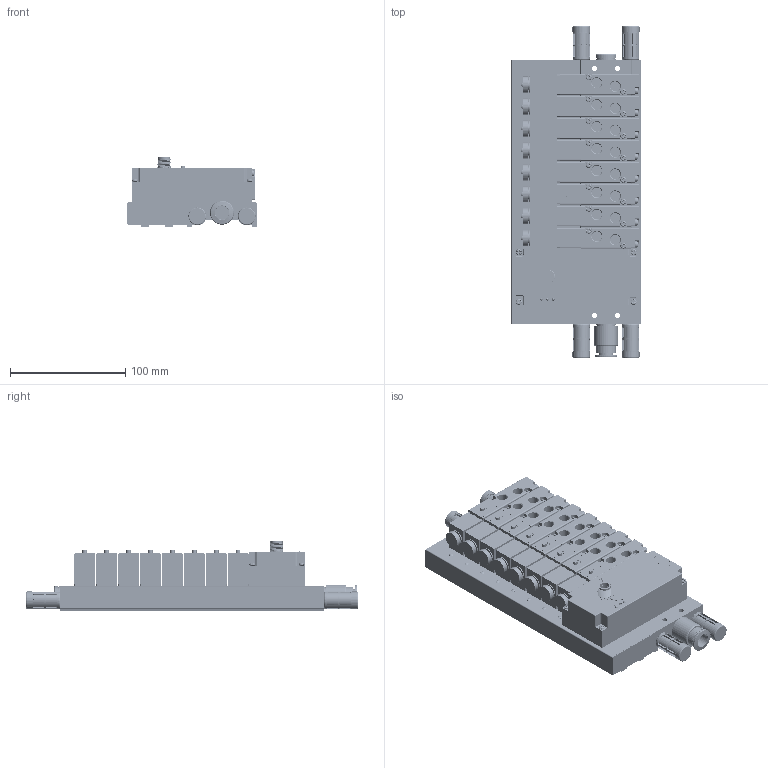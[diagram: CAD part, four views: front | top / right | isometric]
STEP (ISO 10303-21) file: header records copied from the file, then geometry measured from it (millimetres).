
FILE_DESCRIPTION (( 'STEP AP203' ), '1' );
FILE_NAME ('FV-A41-M528-S12-IOL.STEP', '2024-08-27T05:51:24', ( 'L' ), ( '' ), 'SwSTEP 2.0', 'SolidWorks 2019', '' );
FILE_SCHEMA (( 'CONFIG_CONTROL_DESIGN' ));
Length unit declared in the file: millimetre
Products named in the file (27): FV-A41-M528-C4-M523-C6-L5-S8-MPL.stp.STEP; A41-M52.STEP; FZ-100-M-8F-Q.step; FV-IOL.step; _4V110-06 - VALVE BODY_id80_x_t.stp.STEP; 32MM_______id131_x_t.stp.STEP; QS-G1_4-12-I.stp; 100_________id114_x_t.stp.STEP; FV-A41-M528-S12-IOL; 32MM_______id148_x_t.stp.STEP; FV-A41-M527-C6-L1-S8-M1-25_id97_x_t.stp.STEP; U-1_4-30.stp; B-1_4.stp
Assembly tree (64 placements, depth 4):
  FV-A41-M528-S12-IOL
    A41-M52.STEP
      FV-A41-M528-C4-M523-C6-L5-S8-MPL.stp.STEP
        100_________id114_x_t.stp.STEP
        FV-A41-M527-C6-L1-S8-M1-25_id97_x_t.stp.STEP
        _4V110-06 - VALVE BODY_id80_x_t.stp.STEP
        32MM_______id148_x_t.stp.STEP
        32MM_______id131_x_t.stp.STEP
    U-1_4-30.stp  x4
    QS-G1_4-12-I.stp
    B-1_4.stp
    A41-M52.STEP
      FV-A41-M528-C4-M523-C6-L5-S8-MPL.stp.STEP
        100_________id114_x_t.stp.STEP
        FV-A41-M527-C6-L1-S8-M1-25_id97_x_t.stp.STEP
        _4V110-06 - VALVE BODY_id80_x_t.stp.STEP
        32MM_______id148_x_t.stp.STEP
        32MM_______id131_x_t.stp.STEP
    A41-M52.STEP
      FV-A41-M528-C4-M523-C6-L5-S8-MPL.stp.STEP
        100_________id114_x_t.stp.STEP
        FV-A41-M527-C6-L1-S8-M1-25_id97_x_t.stp.STEP
        _4V110-06 - VALVE BODY_id80_x_t.stp.STEP
        32MM_______id148_x_t.stp.STEP
        32MM_______id131_x_t.stp.STEP
    A41-M52.STEP
      FV-A41-M528-C4-M523-C6-L5-S8-MPL.stp.STEP
        100_________id114_x_t.stp.STEP
        FV-A41-M527-C6-L1-S8-M1-25_id97_x_t.stp.STEP
        _4V110-06 - VALVE BODY_id80_x_t.stp.STEP
        32MM_______id148_x_t.stp.STEP
        32MM_______id131_x_t.stp.STEP
    A41-M52.STEP
      FV-A41-M528-C4-M523-C6-L5-S8-MPL.stp.STEP
        100_________id114_x_t.stp.STEP
        FV-A41-M527-C6-L1-S8-M1-25_id97_x_t.stp.STEP
        _4V110-06 - VALVE BODY_id80_x_t.stp.STEP
        32MM_______id148_x_t.stp.STEP
        32MM_______id131_x_t.stp.STEP
    A41-M52.STEP
      FV-A41-M528-C4-M523-C6-L5-S8-MPL.stp.STEP
        100_________id114_x_t.stp.STEP
        FV-A41-M527-C6-L1-S8-M1-25_id97_x_t.stp.STEP
        _4V110-06 - VALVE BODY_id80_x_t.stp.STEP
        32MM_______id148_x_t.stp.STEP
        32MM_______id131_x_t.stp.STEP
    A41-M52.STEP
      FV-A41-M528-C4-M523-C6-L5-S8-MPL.stp.STEP
        100_________id114_x_t.stp.STEP
        FV-A41-M527-C6-L1-S8-M1-25_id97_x_t.stp.STEP
        _4V110-06 - VALVE BODY_id80_x_t.stp.STEP
        32MM_______id148_x_t.stp.STEP
        32MM_______id131_x_t.stp.STEP
    A41-M52.STEP
      FV-A41-M528-C4-M523-C6-L5-S8-MPL.stp.STEP
        100_________id114_x_t.stp.STEP
        FV-A41-M527-C6-L1-S8-M1-25_id97_x_t.stp.STEP
        _4V110-06 - VALVE BODY_id80_x_t.stp.STEP
        32MM_______id148_x_t.stp.STEP
        32MM_______id131_x_t.stp.STEP
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Bounding box: 112 x 287.6 x 60.9 mm (x, y, z)
Volume: 672013.2 mm3; surface area: 333757.6 mm2
Topology: 48 solids, 88 shells, 9388 faces, 25250 edges, 16205 vertices
Faces by surface type: plane 4805, cylinder 3459, torus 346, bspline 309, cone 255, sphere 214
Entity records: 205471 total; most frequent: CARTESIAN_POINT 46423, ORIENTED_EDGE 33306, DIRECTION 31794, EDGE_CURVE 16653, LINE 11190, VECTOR 11190, VERTEX_POINT 10933, AXIS2_PLACEMENT_3D 10302
